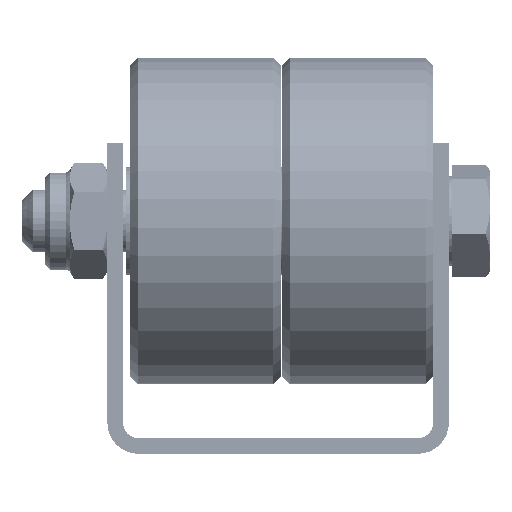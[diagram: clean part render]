
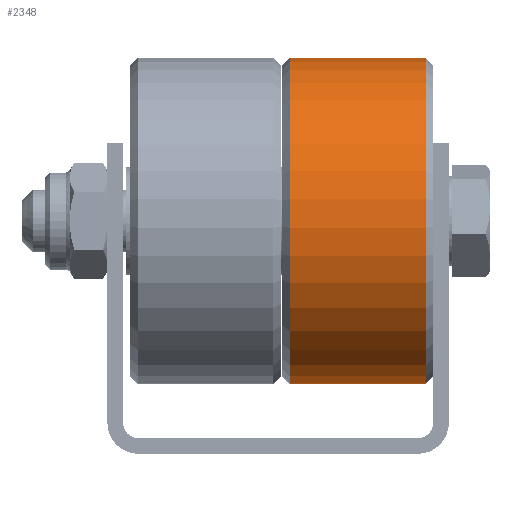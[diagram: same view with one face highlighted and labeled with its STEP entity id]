
A CAD part, front view. The second image highlights one B-rep face of the part: STEP entity #2348.
In plain terms, the highlighted cylindrical face has radius 21 mm (diameter 42 mm), a full revolution.
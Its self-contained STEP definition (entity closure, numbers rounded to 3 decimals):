
#2348 = ADVANCED_FACE( '', ( #4301, #4302 ), #4303, .T. );
#4301 = FACE_OUTER_BOUND( '', #6455, .T. );
#4302 = FACE_OUTER_BOUND( '', #6456, .T. );
#4303 = CYLINDRICAL_SURFACE( '', #6457, 21. );
#6455 = EDGE_LOOP( '', ( #9336 ) );
#6456 = EDGE_LOOP( '', ( #9337 ) );
#6457 = AXIS2_PLACEMENT_3D( '', #9338, #9339, #9340 );
#9336 = ORIENTED_EDGE( '', *, *, #13106, .T. );
#9337 = ORIENTED_EDGE( '', *, *, #13107, .T. );
#9338 = CARTESIAN_POINT( '', ( 0., -9.75, 0. ) );
#9339 = DIRECTION( '', ( 0., -1., 0. ) );
#9340 = DIRECTION( '', ( 0., 0., 1. ) );
#13106 = EDGE_CURVE( '', #15403, #15403, #15404, .F. );
#13107 = EDGE_CURVE( '', #15405, #15405, #15406, .T. );
#15403 = VERTEX_POINT( '', #18512 );
#15404 = CIRCLE( '', #18513, 21. );
#15405 = VERTEX_POINT( '', #18514 );
#15406 = CIRCLE( '', #18515, 21. );
#18512 = CARTESIAN_POINT( '', ( 0., 8.75, 21. ) );
#18513 = AXIS2_PLACEMENT_3D( '', #21324, #21325, #21326 );
#18514 = CARTESIAN_POINT( '', ( 0., -8.75, 21. ) );
#18515 = AXIS2_PLACEMENT_3D( '', #21327, #21328, #21329 );
#21324 = CARTESIAN_POINT( '', ( 0., 8.75, 0. ) );
#21325 = DIRECTION( '', ( 0., 1., 0. ) );
#21326 = DIRECTION( '', ( 0., 0., 1. ) );
#21327 = CARTESIAN_POINT( '', ( 0., -8.75, 0. ) );
#21328 = DIRECTION( '', ( 0., 1., 0. ) );
#21329 = DIRECTION( '', ( 0., 0., 1. ) );
